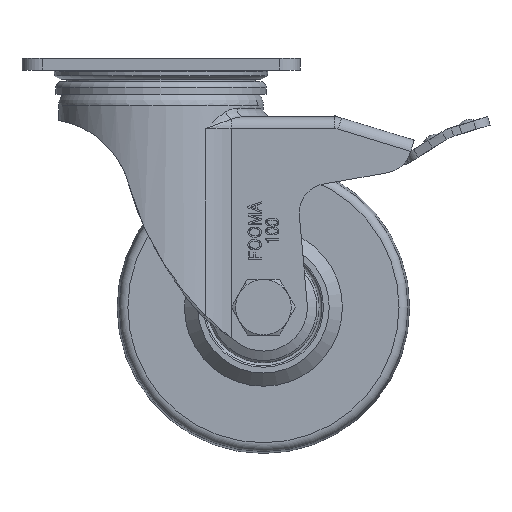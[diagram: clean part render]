
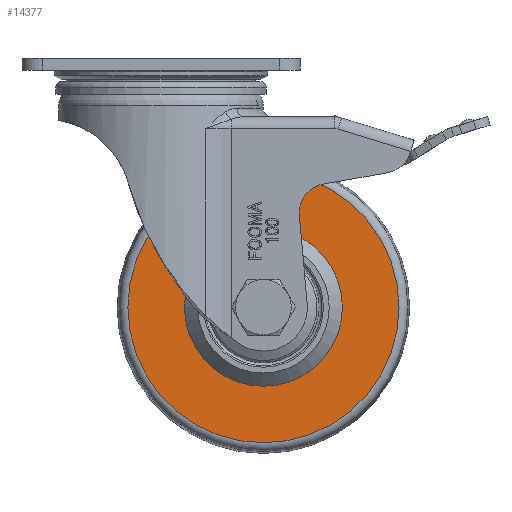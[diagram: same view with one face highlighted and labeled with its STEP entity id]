
A CAD part, left-side view. The second image highlights one B-rep face of the part: STEP entity #14377.
In plain terms, the highlighted planar face has unit normal (-1, 0, 0).
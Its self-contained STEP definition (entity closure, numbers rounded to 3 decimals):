
#3889=PLANE('',#15236);
#4337=FACE_BOUND('',#5330,.T.);
#4492=FACE_OUTER_BOUND('',#5329,.T.);
#5329=EDGE_LOOP('',(#10207));
#5330=EDGE_LOOP('',(#10208));
#6297=CIRCLE('',#15219,27.);
#6306=CIRCLE('',#15235,46.332);
#6731=VERTEX_POINT('',#19881);
#6740=VERTEX_POINT('',#19906);
#8118=EDGE_CURVE('',#6731,#6731,#6297,.T.);
#8127=EDGE_CURVE('',#6740,#6740,#6306,.T.);
#10207=ORIENTED_EDGE('',*,*,#8127,.T.);
#10208=ORIENTED_EDGE('',*,*,#8118,.F.);
#14377=ADVANCED_FACE('',(#4492,#4337),#3889,.T.);
#15219=AXIS2_PLACEMENT_3D('',#19882,#16422,#16423);
#15235=AXIS2_PLACEMENT_3D('',#19907,#16454,#16455);
#15236=AXIS2_PLACEMENT_3D('',#19908,#16456,#16457);
#16422=DIRECTION('center_axis',(-1.,0.,0.));
#16423=DIRECTION('ref_axis',(0.,0.,1.));
#16454=DIRECTION('center_axis',(-1.,0.,0.));
#16455=DIRECTION('ref_axis',(0.,0.,1.));
#16456=DIRECTION('center_axis',(-1.,0.,0.));
#16457=DIRECTION('ref_axis',(0.,0.,1.));
#19881=CARTESIAN_POINT('',(-17.5,-35.,-58.));
#19882=CARTESIAN_POINT('Origin',(-17.5,-35.,-85.));
#19906=CARTESIAN_POINT('',(-17.5,-35.,-38.668));
#19907=CARTESIAN_POINT('Origin',(-17.5,-35.,-85.));
#19908=CARTESIAN_POINT('Origin',(-17.5,-35.,-58.));
